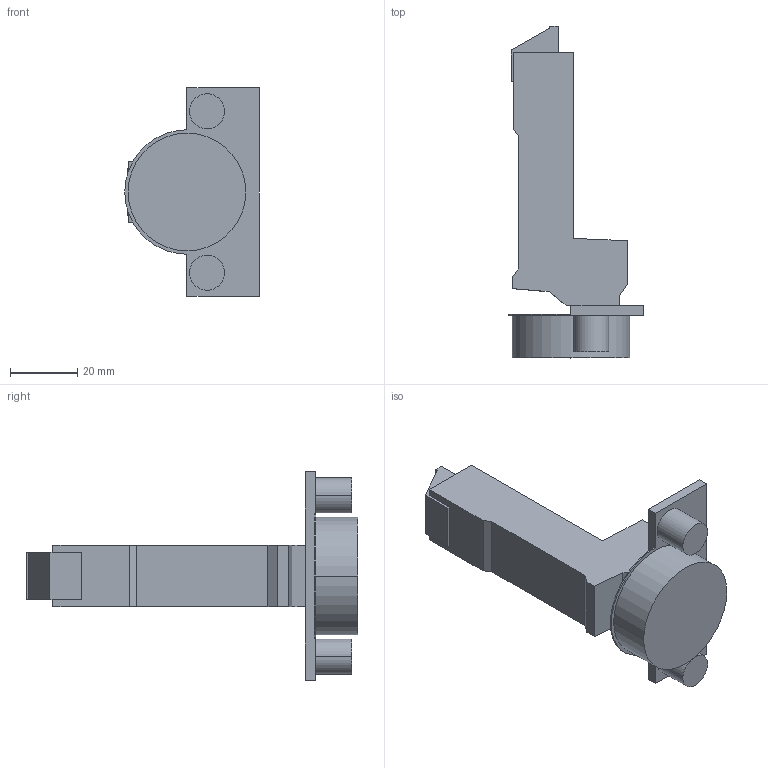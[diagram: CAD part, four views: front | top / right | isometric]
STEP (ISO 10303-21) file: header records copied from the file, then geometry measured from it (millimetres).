
FILE_DESCRIPTION (( 'STEP AP214' ), '1' );
FILE_NAME ('Scharnier TS Click-on 120° S_BB, K19_Dübel.step', '2010-12-06T09:59:11', ( 'grass' ), ( '' ), 'SwSTEP 2.0', 'SolidWorks 2010', '' );
FILE_SCHEMA (( 'AUTOMOTIVE_DESIGN' ));
Length unit declared in the file: millimetre
Products named in the file (1): Scharnier TS Click-on 120° S_BB, K19_Dübel
Bounding box: 40 x 98.7 x 62 mm (x, y, z)
Volume: 46770.4 mm3; surface area: 13232.9 mm2
Topology: 1 solids, 1 shells, 59 faces, 145 edges, 96 vertices
Faces by surface type: plane 41, cylinder 18
Entity records: 1773 total; most frequent: CARTESIAN_POINT 301, DIRECTION 301, ORIENTED_EDGE 290, EDGE_CURVE 145, LINE 109, VECTOR 109, VERTEX_POINT 96, AXIS2_PLACEMENT_3D 96
